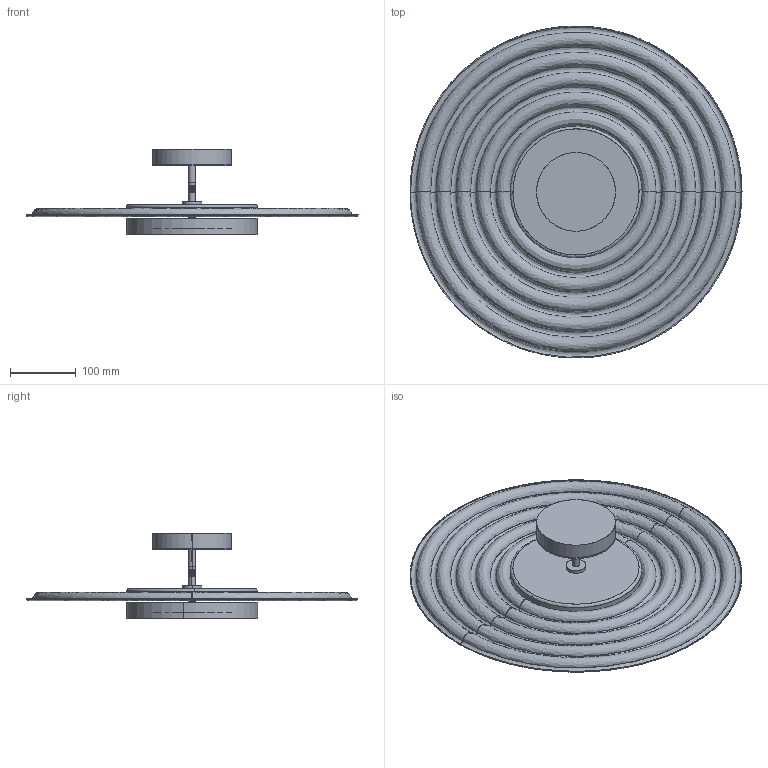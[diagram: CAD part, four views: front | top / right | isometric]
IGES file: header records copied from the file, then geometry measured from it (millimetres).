
Start section: SolidWorks IGES file using analytic representation for surfaces
Global section: file name: C:\Users\Agustin\Desktop\ARNOLD\2024\proyectos\acustico\TICO_A1095_50.IGS; native system: SolidWorks 2018; preprocessor: SolidWorks 2018; author: Agustin; date: 241114.125800; units: millimetre
Bounding box: 505.27 x 505.26 x 130 mm (x, y, z)
Surface area: 747345.7 mm2 (no closed solid volume)
Topology: 0 solids, 0 shells, 217 faces, 5119 edges, 5119 vertices
Faces by surface type: revolution 139, bspline 78
